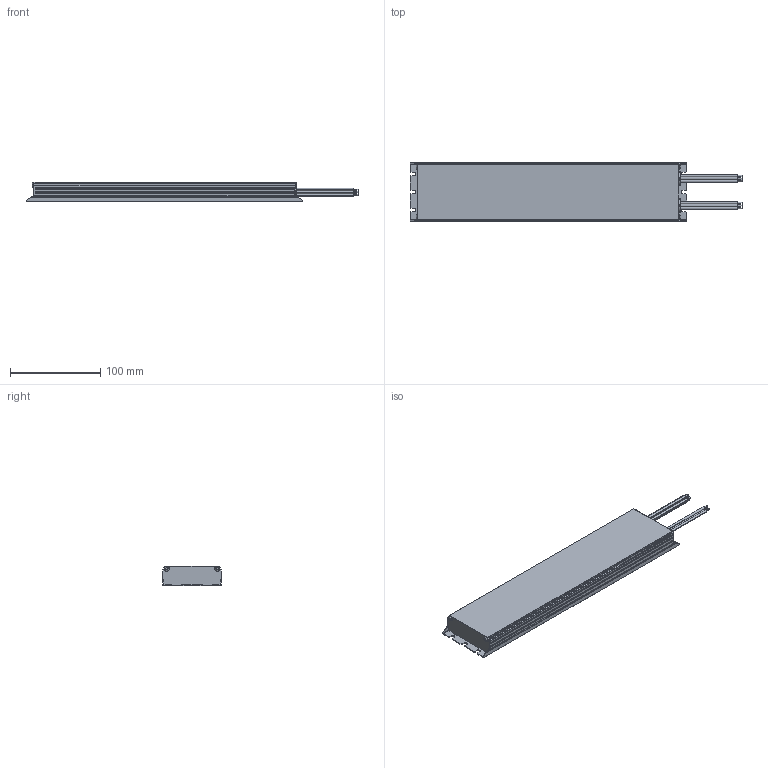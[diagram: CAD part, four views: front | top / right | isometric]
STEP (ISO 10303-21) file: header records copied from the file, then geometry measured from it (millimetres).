
FILE_DESCRIPTION((''),'2;1');
FILE_NAME('15013178Z_DMECDRIV_307X65X22-A','2019-12-11T11:33:46',('juergen.hrach'),(''),'CREO PARAMETRIC BY PTC INC, 2019164','CREO PARAMETRIC BY PTC INC, 2019164','');
FILE_SCHEMA(('CONFIG_CONTROL_DESIGN'));
Length unit declared in the file: millimetre
Products named in the file (1): 15013178Z_DMECDRIV_307X65X22-A
Bounding box: 368.5 x 65 x 22 mm (x, y, z)
Volume: 413297.8 mm3; surface area: 67451.1 mm2
Topology: 1 solids, 1 shells, 432 faces, 1124 edges, 712 vertices
Faces by surface type: cylinder 188, plane 180, torus 36, sphere 12, bspline 12, cone 4
Entity records: 15894 total; most frequent: CARTESIAN_POINT 5096, DIRECTION 2324, ORIENTED_EDGE 2224, EDGE_CURVE 1112, AXIS2_PLACEMENT_3D 872, VERTEX_POINT 712, VECTOR 580, LINE 580
